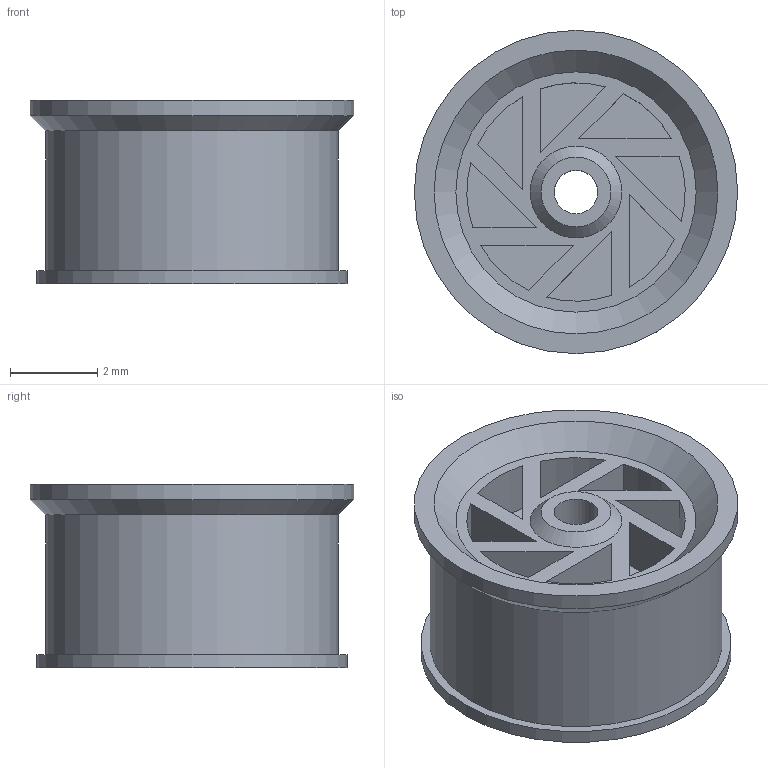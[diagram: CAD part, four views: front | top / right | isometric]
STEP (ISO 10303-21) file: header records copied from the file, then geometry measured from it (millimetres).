
FILE_DESCRIPTION(('Open CASCADE Model'),'2;1');
FILE_NAME('Open CASCADE Shape Model','2026-10-09T16:33:01',('Author'),( 'Open CASCADE'),'Open CASCADE STEP processor 8.0','build123d', 'Unknown');
FILE_SCHEMA(('AUTOMOTIVE_DESIGN { 1 0 10303 214 1 1 1 1 }'));
Length unit declared in the file: millimetre
Products named in the file (1): COMPOUND
Bounding box: 7.4 x 7.4 x 4.2 mm (x, y, z)
Volume: 125.2 mm3; surface area: 244.4 mm2
Topology: 1 solids, 1 shells, 44 faces, 91 edges, 60 vertices
Faces by surface type: plane 29, cylinder 12, cone 3
Full cylindrical faces by diameter (mm): 1 x1, 6.7 x1, 7.1 x1, 7.4 x1
Entity records: 2355 total; most frequent: CARTESIAN_POINT 459, DIRECTION 350, LINE 186, VECTOR 186, ORIENTED_EDGE 182, PCURVE 182, DEFINITIONAL_REPRESENTATION 182, EDGE_CURVE 91
